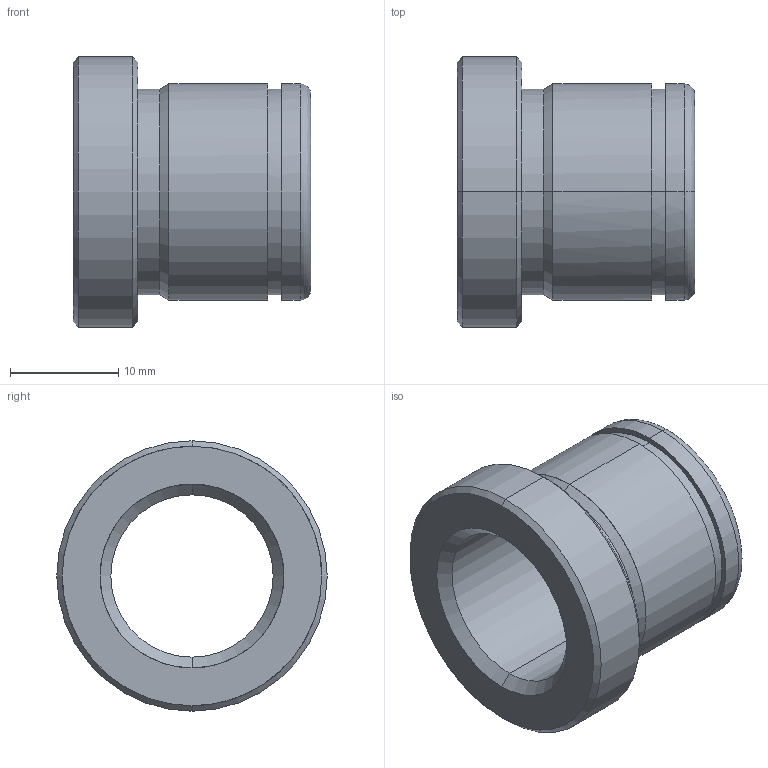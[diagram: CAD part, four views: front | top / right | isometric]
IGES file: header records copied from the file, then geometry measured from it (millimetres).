
Start section: START RECORD GO HERE.
Global section: file name: 553-15X22.igs; native system: DASSAULT SYSTEMES CATIA V5 R20 - www.3ds.com; preprocessor: CATIA Version 5 Release 20 ; author: Utente; organization: NB04-ASUS; date: 20210521.203957; units: millimetre
Bounding box: 22 x 25 x 25 mm (x, y, z)
Surface area: 3100.3 mm2 (no closed solid volume)
Topology: 0 solids, 0 shells, 28 faces, 176 edges, 176 vertices
Faces by surface type: revolution 24, plane 4
